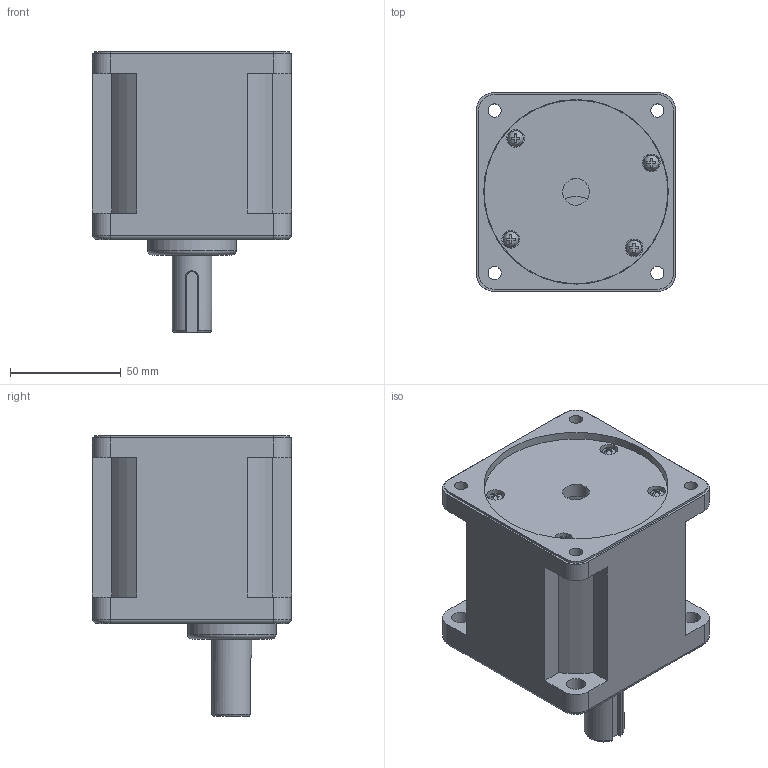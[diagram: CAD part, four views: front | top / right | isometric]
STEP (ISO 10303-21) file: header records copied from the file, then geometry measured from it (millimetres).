
FILE_DESCRIPTION((''),'2;1');
FILE_NAME('D:\작업\흐힠~\3D 모델링\S9KH_B_.stp','2013-01-04T10:30:21',('jy-jung'),(''),'Autodesk Inventor 2011','Autodesk Inventor 2011','');
FILE_SCHEMA(('AUTOMOTIVE_DESIGN { 1 0 10303 214 1 1 1 1 }'));
Length unit declared in the file: millimetre
Products named in the file (1): 부품3
Bounding box: 90 x 90 x 127 mm (x, y, z)
Volume: 246025.8 mm3; surface area: 90017 mm2
Topology: 2 solids, 2 shells, 190 faces, 456 edges, 295 vertices
Faces by surface type: plane 106, cylinder 54, cone 13, torus 12, bspline 5
Full cylindrical faces by diameter (mm): 2 x1, 4 x4, 4.5 x4, 6 x4, 7 x4, 8 x4, 8.5 x4, 12.1 x1, 18 x1, 20 x1, 20.5 x1, 32 x1, 40 x1, 83 x1, 83.5 x1
Entity records: 5727 total; most frequent: CARTESIAN_POINT 1350, DIRECTION 839, ORIENTED_EDGE 776, EDGE_CURVE 388, AXIS2_PLACEMENT_3D 319, EDGE_LOOP 290, VERTEX_POINT 284, VECTOR 201
